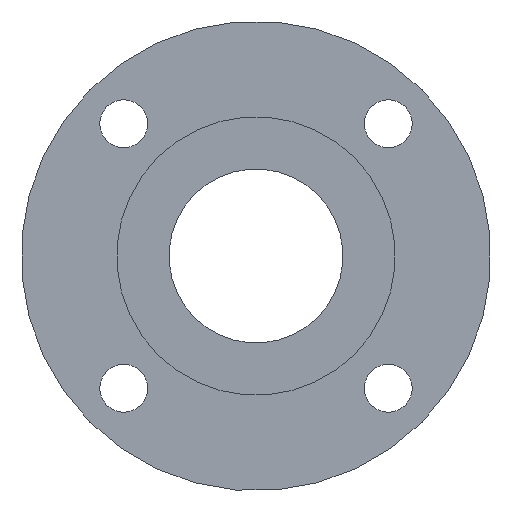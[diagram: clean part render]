
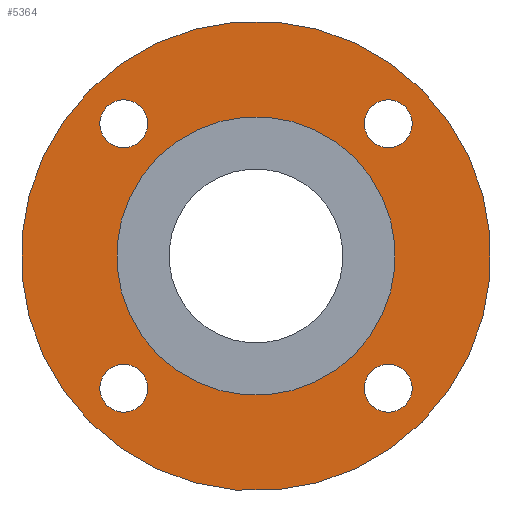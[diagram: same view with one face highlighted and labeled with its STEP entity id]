
A CAD part, left-side view. The second image highlights one B-rep face of the part: STEP entity #5364.
In plain terms, the highlighted planar face has unit normal (-1, 0, 0).
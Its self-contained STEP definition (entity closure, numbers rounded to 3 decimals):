
#109=CIRCLE('',#5706,16.);
#111=CIRCLE('',#5711,27.);
#112=CIRCLE('',#5713,2.75);
#113=CIRCLE('',#5714,2.75);
#114=CIRCLE('',#5715,2.75);
#115=CIRCLE('',#5716,2.75);
#1631=ORIENTED_EDGE('',*,*,#3171,.T.);
#1632=ORIENTED_EDGE('',*,*,#3172,.T.);
#1633=ORIENTED_EDGE('',*,*,#3173,.T.);
#1634=ORIENTED_EDGE('',*,*,#3174,.T.);
#1635=ORIENTED_EDGE('',*,*,#3168,.F.);
#1636=ORIENTED_EDGE('',*,*,#3170,.F.);
#3168=EDGE_CURVE('',#3940,#3940,#109,.F.);
#3170=EDGE_CURVE('',#3942,#3942,#111,.T.);
#3171=EDGE_CURVE('',#3943,#3943,#112,.T.);
#3172=EDGE_CURVE('',#3944,#3944,#113,.T.);
#3173=EDGE_CURVE('',#3945,#3945,#114,.T.);
#3174=EDGE_CURVE('',#3946,#3946,#115,.T.);
#3940=VERTEX_POINT('',#8526);
#3942=VERTEX_POINT('',#8533);
#3943=VERTEX_POINT('',#8536);
#3944=VERTEX_POINT('',#8538);
#3945=VERTEX_POINT('',#8540);
#3946=VERTEX_POINT('',#8542);
#4391=EDGE_LOOP('',(#1631));
#4392=EDGE_LOOP('',(#1632));
#4393=EDGE_LOOP('',(#1633));
#4394=EDGE_LOOP('',(#1634));
#4395=EDGE_LOOP('',(#1635));
#4396=EDGE_LOOP('',(#1636));
#4781=FACE_BOUND('',#4391,.T.);
#4782=FACE_BOUND('',#4392,.T.);
#4783=FACE_BOUND('',#4393,.T.);
#4784=FACE_BOUND('',#4394,.T.);
#4785=FACE_BOUND('',#4395,.T.);
#4786=FACE_BOUND('',#4396,.T.);
#5118=PLANE('',#5712);
#5364=ADVANCED_FACE('',(#4781,#4782,#4783,#4784,#4785,#4786),#5118,.F.);
#5706=AXIS2_PLACEMENT_3D('',#8525,#6198,#6199);
#5711=AXIS2_PLACEMENT_3D('',#8532,#6208,#6209);
#5712=AXIS2_PLACEMENT_3D('',#8534,#6210,#6211);
#5713=AXIS2_PLACEMENT_3D('',#8535,#6212,#6213);
#5714=AXIS2_PLACEMENT_3D('',#8537,#6214,#6215);
#5715=AXIS2_PLACEMENT_3D('',#8539,#6216,#6217);
#5716=AXIS2_PLACEMENT_3D('',#8541,#6218,#6219);
#6198=DIRECTION('',(1.,0.,0.));
#6199=DIRECTION('',(0.,0.707,-0.707));
#6208=DIRECTION('',(1.,0.,0.));
#6209=DIRECTION('',(0.,0.707,-0.707));
#6210=DIRECTION('',(1.,0.,0.));
#6211=DIRECTION('',(0.,0.707,-0.707));
#6212=DIRECTION('',(1.,0.,0.));
#6213=DIRECTION('',(0.,0.707,-0.707));
#6214=DIRECTION('',(1.,0.,0.));
#6215=DIRECTION('',(0.,0.707,-0.707));
#6216=DIRECTION('',(1.,0.,0.));
#6217=DIRECTION('',(0.,0.707,-0.707));
#6218=DIRECTION('',(1.,0.,0.));
#6219=DIRECTION('',(0.,0.707,-0.707));
#8525=CARTESIAN_POINT('',(13.,0.,0.));
#8526=CARTESIAN_POINT('',(13.,11.314,-11.314));
#8532=CARTESIAN_POINT('',(13.,0.,0.));
#8533=CARTESIAN_POINT('',(13.,19.092,-19.092));
#8534=CARTESIAN_POINT('',(13.,0.,0.));
#8535=CARTESIAN_POINT('',(13.,15.203,-15.203));
#8536=CARTESIAN_POINT('',(13.,17.147,-17.147));
#8537=CARTESIAN_POINT('',(13.,-15.203,-15.203));
#8538=CARTESIAN_POINT('',(13.,-13.258,-17.147));
#8539=CARTESIAN_POINT('',(13.,-15.203,15.203));
#8540=CARTESIAN_POINT('',(13.,-13.258,13.258));
#8541=CARTESIAN_POINT('',(13.,15.203,15.203));
#8542=CARTESIAN_POINT('',(13.,17.147,13.258));
